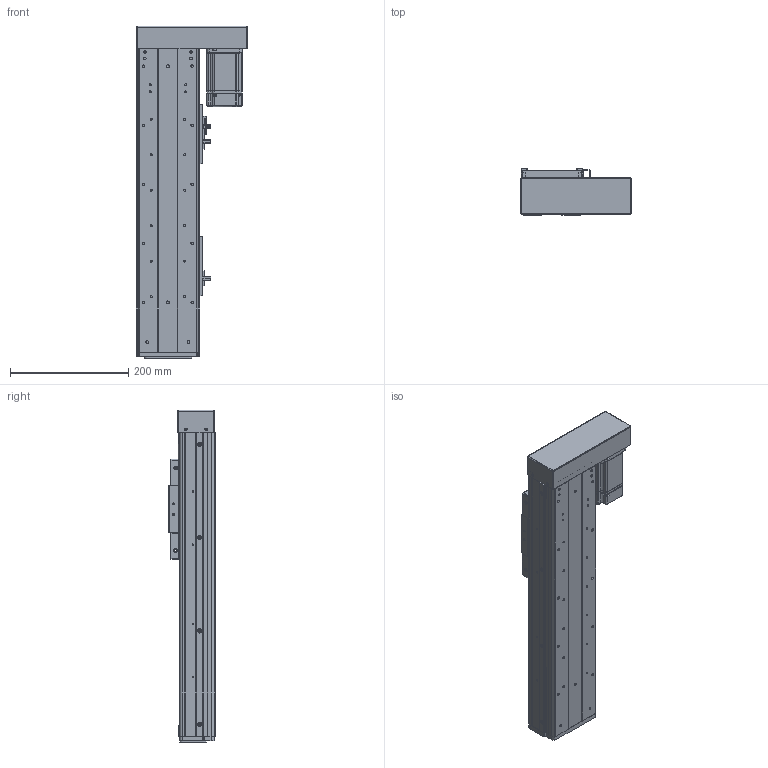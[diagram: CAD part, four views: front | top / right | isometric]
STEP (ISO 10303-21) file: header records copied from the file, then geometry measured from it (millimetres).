
FILE_DESCRIPTION (( 'STEP AP203' ), '1' );
FILE_NAME ('RY100FS-L1620-300-RK(15双轨).SLDASM_250.step', '2021-03-02T07:45:57', ( '盈信电脑' ), ( '东莞市道滘镇水果街19号' ), 'SwSTEP 2.0', 'SolidWorks 2012', '' );
FILE_SCHEMA (( 'CONFIG_CONTROL_DESIGN' ));
Products named in the file (21): RY100FS-300-RK15絳寢倰第奻裔啣_250; RY100FS-300-RK15絳寢倰第菁釱_250; RY100FS-300-RK15邧寢祥凄詩湍_250; RY100FS-L1620-300-RK(15邧寢).SLDASM_250; RY100FS-15邧寢蛌殏萇儂欶; 1; RY100FS-15邧寢蛌殏萇儂啣; 蚥薯蝶紫輸; RY100F-詩湍揤踡輸; RY100FS-15邧寢蛌殏萇儂釱; RY100FS-双轨螺母座(16丝杆）; 滅袉蝶14-35; 672嫖萇羲壽假蚾釱; 覜茼ん672; RY80俋离覜茼え; RY100F-詩湍幗謫粣; 棠沺沭; RY100F-綴裔啣; RY100F-詩湍揤踡謫; RY100FS-双轨铝滑块(上板）; RY100F-滅鳥裔啣
Assembly tree (29 placements, depth 2):
  RY100FS-L1620-300-RK(15邧寢).SLDASM_250
    RY100FS-300-RK15絳寢倰第菁釱_250
    RY100FS-300-RK15絳寢倰第奻裔啣_250  x2
    RY100FS-300-RK15邧寢祥凄詩湍_250
    RY100FS-双轨铝滑块(上板）
    RY100F-滅鳥裔啣
    棠沺沭  x2
    RY100F-詩湍幗謫粣
    RY100F-詩湍揤踡謫  x2
    RY100F-綴裔啣
    672嫖萇羲壽假蚾釱  x2
    RY80俋离覜茼え  x2
    覜茼ん672  x3
    RY100F-詩湍揤踡輸  x2
    RY100FS-双轨螺母座(16丝杆）
    RY100FS-15邧寢蛌殏萇儂釱
    滅袉蝶14-35
    1
    RY100FS-15邧寢蛌殏萇儂啣
    RY100FS-15邧寢蛌殏萇儂欶
    蚥薯蝶紫輸  x2
Bounding box: 189.5 x 78.5 x 562 mm (x, y, z)
Volume: 1749452.3 mm3; surface area: 714613.7 mm2
Topology: 29 solids, 29 shells, 2154 faces, 5791 edges, 3731 vertices
Faces by surface type: plane 1014, cylinder 939, cone 168, bspline 33
Entity records: 60323 total; most frequent: CARTESIAN_POINT 12147, DIRECTION 9652, ORIENTED_EDGE 9386, EDGE_CURVE 4693, AXIS2_PLACEMENT_3D 3404, VERTEX_POINT 3079, LINE 2844, VECTOR 2844
